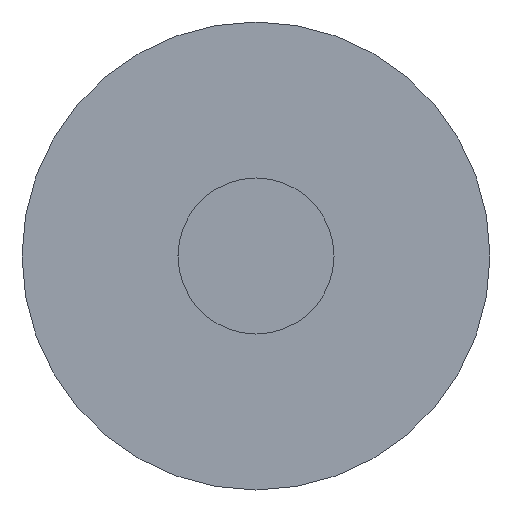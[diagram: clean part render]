
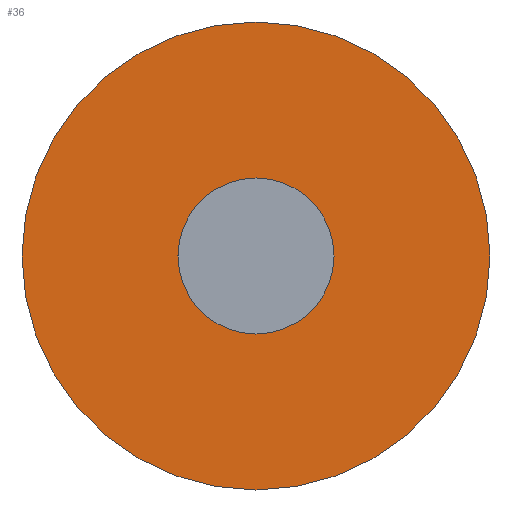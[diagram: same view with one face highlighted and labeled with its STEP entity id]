
A CAD part, front view. The second image highlights one B-rep face of the part: STEP entity #36.
In plain terms, the highlighted planar face has unit normal (0, -1, 0).
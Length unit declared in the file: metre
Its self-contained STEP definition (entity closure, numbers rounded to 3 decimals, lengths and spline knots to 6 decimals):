
#36 = ADVANCED_FACE( '', ( #72, #73 ), #74, .F. );
#72 = FACE_BOUND( '', #109, .T. );
#73 = FACE_OUTER_BOUND( '', #110, .T. );
#74 = PLANE( '', #111 );
#109 = EDGE_LOOP( '', ( #144 ) );
#110 = EDGE_LOOP( '', ( #145 ) );
#111 = AXIS2_PLACEMENT_3D( '', #146, #147, #148 );
#144 = ORIENTED_EDGE( '', *, *, #182, .F. );
#145 = ORIENTED_EDGE( '', *, *, #184, .T. );
#146 = CARTESIAN_POINT( '', ( -0.00225, 0.002292, 0. ) );
#147 = DIRECTION( '', ( 0., 1., 0. ) );
#148 = DIRECTION( '', ( -1., 0., 0. ) );
#182 = EDGE_CURVE( '', #199, #199, #200, .T. );
#184 = EDGE_CURVE( '', #202, #202, #203, .T. );
#199 = VERTEX_POINT( '', #221 );
#200 = CIRCLE( '', #222, 0.00075 );
#202 = VERTEX_POINT( '', #224 );
#203 = CIRCLE( '', #225, 0.00225 );
#221 = CARTESIAN_POINT( '', ( 0.00075, 0.002292, 0. ) );
#222 = AXIS2_PLACEMENT_3D( '', #243, #244, #245 );
#224 = CARTESIAN_POINT( '', ( 0.00225, 0.002292, 0. ) );
#225 = AXIS2_PLACEMENT_3D( '', #246, #247, #248 );
#243 = CARTESIAN_POINT( '', ( 0., 0.002292, 0. ) );
#244 = DIRECTION( '', ( 0., -1., 0. ) );
#245 = DIRECTION( '', ( 1., 0., 0. ) );
#246 = CARTESIAN_POINT( '', ( 0., 0.002292, 0. ) );
#247 = DIRECTION( '', ( 0., -1., 0. ) );
#248 = DIRECTION( '', ( 1., 0., 0. ) );
